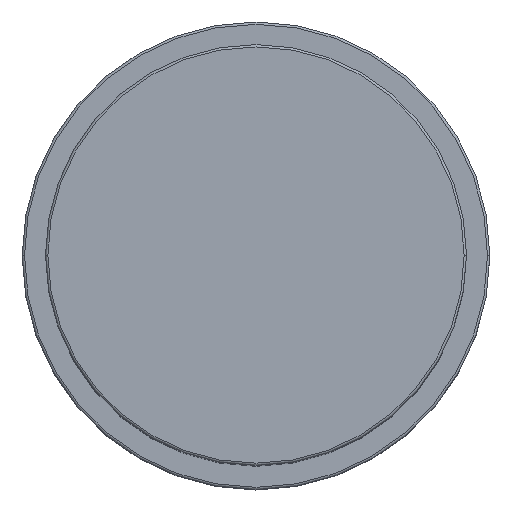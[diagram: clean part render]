
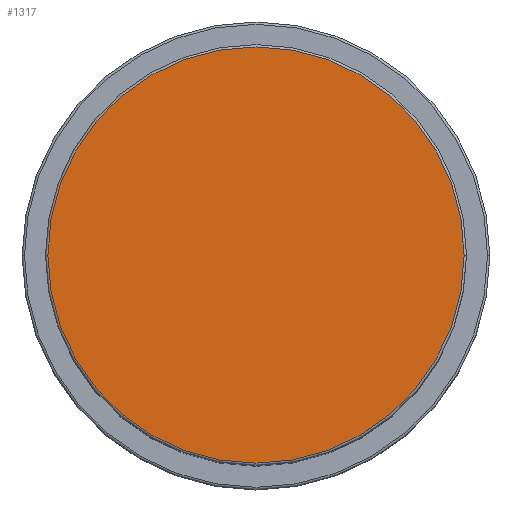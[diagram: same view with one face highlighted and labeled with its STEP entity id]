
A CAD part, top view. The second image highlights one B-rep face of the part: STEP entity #1317.
In plain terms, the highlighted planar face has unit normal (0, 0, 1).
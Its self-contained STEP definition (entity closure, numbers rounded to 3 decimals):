
#61 = AXIS2_PLACEMENT_3D ( 'NONE', #346, #651, #493 ) ;
#130 = DIRECTION ( 'NONE',  ( 1., 0., 0. ) ) ;
#151 = EDGE_CURVE ( 'NONE', #1258, #937, #1312, .T. ) ;
#173 = CARTESIAN_POINT ( 'NONE',  ( 0., 0., 117. ) ) ;
#346 = CARTESIAN_POINT ( 'NONE',  ( 0., 0., 117. ) ) ;
#434 = PLANE ( 'NONE',  #1721 ) ;
#493 = DIRECTION ( 'NONE',  ( 1., 0., 0. ) ) ;
#651 = DIRECTION ( 'NONE',  ( 0., 0., 1. ) ) ;
#704 = FACE_OUTER_BOUND ( 'NONE', #1847, .T. ) ;
#876 = EDGE_CURVE ( 'NONE', #937, #1258, #963, .T. ) ;
#937 = VERTEX_POINT ( 'NONE', #1929 ) ;
#963 = CIRCLE ( 'NONE', #2018, 44.5 ) ;
#1242 = DIRECTION ( 'NONE',  ( 1., 0., 0. ) ) ;
#1258 = VERTEX_POINT ( 'NONE', #1665 ) ;
#1312 = CIRCLE ( 'NONE', #61, 44.5 ) ;
#1317 = ADVANCED_FACE ( 'NONE', ( #704 ), #434, .T. ) ;
#1353 = ORIENTED_EDGE ( 'NONE', *, *, #151, .T. ) ;
#1522 = CARTESIAN_POINT ( 'NONE',  ( 0., 0., 117. ) ) ;
#1665 = CARTESIAN_POINT ( 'NONE',  ( -44.5, 0., 117. ) ) ;
#1676 = DIRECTION ( 'NONE',  ( 0., 0., 1. ) ) ;
#1721 = AXIS2_PLACEMENT_3D ( 'NONE', #1522, #1676, #130 ) ;
#1724 = DIRECTION ( 'NONE',  ( 0., 0., 1. ) ) ;
#1847 = EDGE_LOOP ( 'NONE', ( #1932, #1353 ) ) ;
#1929 = CARTESIAN_POINT ( 'NONE',  ( 44.5, 0., 117. ) ) ;
#1932 = ORIENTED_EDGE ( 'NONE', *, *, #876, .T. ) ;
#2018 = AXIS2_PLACEMENT_3D ( 'NONE', #173, #1724, #1242 ) ;
